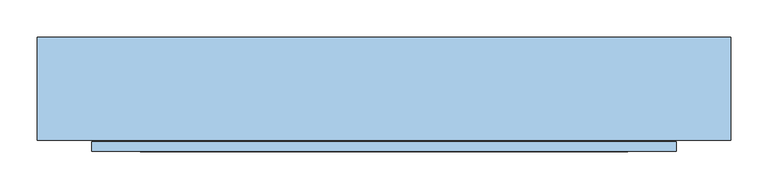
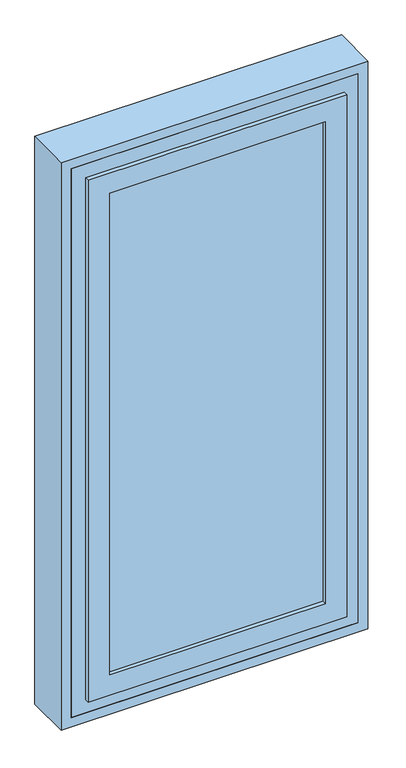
"""IFC4 building model written with IfcOpenShell, lengths in millimetres: window geometry, Окно 1-Распашное - Разделенные наружные и парные внутренние переплеты с остеклением - ГОСТ 11214-2003 : ОД РСП Г1 1760-870-138 ГОСТ 11214-2003."""

from ifc_helpers import new_model, si_unit, frame, origin, place, context, project, spatial, polyline, outline, extrude, faceted_brep, source, transform, mapped, element, save


def window_630a9bb4(model_context):
    return source(origin(), model_context, "Body", "SolidModel", [
        extrude(outline(polyline([(2620.0, -485.0), (800.0, -485.0), (800.0, 445.0), (2620.0, 445.0), (2620.0, -485.0)]), holes=[polyline([(2590.0, 415.0), (830.0, 415.0), (830.0, -455.0), (2590.0, -455.0), (2590.0, 415.0)])]), frame((0.0, 167.0, 0.0), z_axis=(0.0, 1.0, 0.0), x_axis=(0.0, 0.0, 1.0)), (0.0, 0.0, 1.0), 138.0),
        extrude(outline(polyline([(-354.0, 271.0), (-354.0, 274.0), (314.0, 274.0), (314.0, 271.0), (-354.0, 271.0)])), frame((0.0, 0.0, 931.0), z_axis=(0.0, 0.0, 1.0), x_axis=(1.0, 0.0, 0.0)), (0.0, 0.0, 1.0), 1558.0),
        extrude(outline(polyline([(-367.0, 212.0), (-367.0, 215.0), (327.0, 215.0), (327.0, 212.0), (-367.0, 212.0)])), frame((0.0, 0.0, 918.0), z_axis=(0.0, 0.0, 1.0), x_axis=(1.0, 0.0, 0.0)), (0.0, 0.0, 1.0), 1584.0),
        extrude(outline(polyline([(-367.0, 165.0), (-367.0, 168.0), (327.0, 168.0), (327.0, 165.0), (-367.0, 165.0)])), frame((0.0, 0.0, 918.0), z_axis=(0.0, 0.0, 1.0), x_axis=(1.0, 0.0, 0.0)), (0.0, 0.0, 1.0), 1584.0),
        faceted_brep([(359.0, 259.0, 2534.0), (359.0, 246.0, 2534.0), (359.0, 246.0, 886.0), (359.0, 259.0, 886.0), (-399.0, 246.0, 2534.0), (-399.0, 246.0, 886.0), (294.0, 246.0, 951.0), (-334.0, 246.0, 951.0), (-334.0, 246.0, 2469.0), (294.0, 246.0, 2469.0), (-399.0, 259.0, 886.0), (-399.0, 259.0, 2534.0), (350.0, 259.0, 2525.0), (-390.0, 259.0, 2525.0), (-390.0, 259.0, 895.0), (350.0, 259.0, 895.0), (350.0, 287.0, 2525.0), (350.0, 287.0, 895.0), (-390.0, 287.0, 895.0), (-390.0, 287.0, 2525.0), (294.0, 287.0, 2469.0), (-334.0, 287.0, 2469.0), (-334.0, 287.0, 951.0), (294.0, 287.0, 951.0), (294.0, 271.0, 2469.0), (294.0, 271.0, 951.0), (314.0, 271.0, 931.0), (-354.0, 271.0, 931.0), (-354.0, 271.0, 2489.0), (314.0, 271.0, 2489.0), (-334.0, 271.0, 2469.0), (-334.0, 271.0, 951.0), (-334.0, 274.0, 951.0), (-334.0, 274.0, 2469.0), (294.0, 274.0, 951.0), (294.0, 274.0, 2469.0), (314.0, 274.0, 2489.0), (-354.0, 274.0, 2489.0), (-354.0, 274.0, 931.0), (314.0, 274.0, 931.0)], [[[0, 1, 2, 3]], [[1, 4, 5, 2], [6, 7, 8, 9]], [[3, 2, 5, 10]], [[3, 10, 11, 0], [12, 13, 14, 15]], [[16, 12, 15, 17]], [[17, 15, 14, 18]], [[17, 18, 19, 16], [20, 21, 22, 23]], [[9, 24, 25, 6]], [[26, 27, 28, 29], [24, 30, 31, 25]], [[6, 25, 31, 7]], [[10, 5, 4, 11]], [[18, 14, 13, 19]], [[7, 31, 30, 8]], [[32, 22, 21, 33]], [[34, 23, 22, 32]], [[35, 20, 23, 34]], [[36, 37, 38, 39], [34, 32, 33, 35]], [[29, 36, 39, 26]], [[26, 39, 38, 27]], [[27, 38, 37, 28]], [[11, 4, 1, 0]], [[19, 13, 12, 16]], [[8, 30, 24, 9]], [[33, 21, 20, 35]], [[28, 37, 36, 29]]]),
        faceted_brep([(362.0, 228.0, 2537.0), (362.0, 196.0, 2537.0), (362.0, 196.0, 883.0), (362.0, 228.0, 883.0), (-402.0, 196.0, 2537.0), (-402.0, 196.0, 883.0), (307.0, 196.0, 938.0), (-347.0, 196.0, 938.0), (-347.0, 196.0, 2482.0), (307.0, 196.0, 2482.0), (-402.0, 228.0, 883.0), (-402.0, 228.0, 2537.0), (307.0, 228.0, 2482.0), (-347.0, 228.0, 2482.0), (-347.0, 228.0, 938.0), (307.0, 228.0, 938.0), (307.0, 212.0, 2482.0), (307.0, 212.0, 938.0), (327.0, 212.0, 918.0), (-367.0, 212.0, 918.0), (-367.0, 212.0, 2502.0), (327.0, 212.0, 2502.0), (-347.0, 212.0, 2482.0), (-347.0, 212.0, 938.0), (-347.0, 215.0, 938.0), (-347.0, 215.0, 2482.0), (307.0, 215.0, 938.0), (307.0, 215.0, 2482.0), (327.0, 215.0, 2502.0), (-367.0, 215.0, 2502.0), (-367.0, 215.0, 918.0), (327.0, 215.0, 918.0)], [[[0, 1, 2, 3]], [[1, 4, 5, 2], [6, 7, 8, 9]], [[3, 2, 5, 10]], [[3, 10, 11, 0], [12, 13, 14, 15]], [[9, 16, 17, 6]], [[18, 19, 20, 21], [16, 22, 23, 17]], [[6, 17, 23, 7]], [[10, 5, 4, 11]], [[7, 23, 22, 8]], [[24, 14, 13, 25]], [[26, 15, 14, 24]], [[27, 12, 15, 26]], [[28, 29, 30, 31], [26, 24, 25, 27]], [[21, 28, 31, 18]], [[18, 31, 30, 19]], [[19, 30, 29, 20]], [[11, 4, 1, 0]], [[8, 22, 16, 9]], [[25, 13, 12, 27]], [[20, 29, 28, 21]]]),
        faceted_brep([(372.0, 165.0, 2547.0), (372.0, 152.0, 2547.0), (372.0, 152.0, 873.0), (372.0, 165.0, 873.0), (-412.0, 152.0, 2547.0), (-412.0, 152.0, 873.0), (307.0, 152.0, 938.0), (-347.0, 152.0, 938.0), (-347.0, 152.0, 2482.0), (307.0, 152.0, 2482.0), (-412.0, 165.0, 873.0), (-412.0, 165.0, 2547.0), (362.0, 165.0, 2537.0), (-402.0, 165.0, 2537.0), (-402.0, 165.0, 883.0), (362.0, 165.0, 883.0), (362.0, 194.0, 2537.0), (362.0, 194.0, 883.0), (-402.0, 194.0, 883.0), (-402.0, 194.0, 2537.0), (307.0, 194.0, 2482.0), (-347.0, 194.0, 2482.0), (-347.0, 194.0, 938.0), (307.0, 194.0, 938.0), (307.0, 165.0, 2482.0), (307.0, 165.0, 938.0), (327.0, 165.0, 918.0), (-367.0, 165.0, 918.0), (-367.0, 165.0, 2502.0), (327.0, 165.0, 2502.0), (-347.0, 165.0, 2482.0), (-347.0, 165.0, 938.0), (-347.0, 168.0, 938.0), (-347.0, 168.0, 2482.0), (307.0, 168.0, 938.0), (307.0, 168.0, 2482.0), (327.0, 168.0, 2502.0), (-367.0, 168.0, 2502.0), (-367.0, 168.0, 918.0), (327.0, 168.0, 918.0)], [[[0, 1, 2, 3]], [[1, 4, 5, 2], [6, 7, 8, 9]], [[3, 2, 5, 10]], [[3, 10, 11, 0], [12, 13, 14, 15]], [[16, 12, 15, 17]], [[17, 15, 14, 18]], [[17, 18, 19, 16], [20, 21, 22, 23]], [[9, 24, 25, 6]], [[26, 27, 28, 29], [24, 30, 31, 25]], [[6, 25, 31, 7]], [[10, 5, 4, 11]], [[18, 14, 13, 19]], [[7, 31, 30, 8]], [[32, 22, 21, 33]], [[34, 23, 22, 32]], [[35, 20, 23, 34]], [[36, 37, 38, 39], [34, 32, 33, 35]], [[29, 36, 39, 26]], [[26, 39, 38, 27]], [[27, 38, 37, 28]], [[11, 4, 1, 0]], [[19, 13, 12, 16]], [[8, 30, 24, 9]], [[33, 21, 20, 35]], [[28, 37, 36, 29]]]),
        faceted_brep([(415.0, 305.0, 830.0), (415.0, 167.0, 830.0), (-455.0, 167.0, 830.0), (-455.0, 305.0, 830.0), (415.0, 167.0, 2590.0), (415.0, 305.0, 2590.0), (-455.0, 167.0, 2590.0), (364.0, 167.0, 2539.0), (364.0, 167.0, 881.0), (-404.0, 167.0, 881.0), (-404.0, 167.0, 2539.0), (-455.0, 305.0, 2590.0), (-374.0, 305.0, 2509.0), (-374.0, 305.0, 887.1764763), (334.0, 305.0, 887.1764763), (334.0, 305.0, 2509.0), (-374.0, 289.0, 2509.0), (-374.0, 289.0, 893.0), (334.0, 289.0, 893.0), (334.0, 289.0, 2509.0), (364.0, 261.0, 2539.0), (364.0, 261.0, 881.0), (-404.0, 261.0, 881.0), (-404.0, 261.0, 2539.0), (352.0, 261.0, 2527.0), (352.0, 261.0, 893.0), (-392.0, 261.0, 893.0), (-392.0, 261.0, 2527.0), (352.0, 289.0, 2527.0), (352.0, 289.0, 893.0), (-392.0, 289.0, 893.0), (-392.0, 289.0, 2527.0)], [[[0, 1, 2, 3]], [[4, 1, 0, 5]], [[2, 1, 4, 6], [7, 8, 9, 10]], [[2, 6, 11, 3]], [[0, 3, 11, 5], [12, 13, 14, 15]], [[12, 16, 17, 13]], [[14, 13, 17, 18]], [[19, 15, 14, 18]], [[7, 20, 21, 8]], [[9, 8, 21, 22]], [[22, 23, 10, 9]], [[20, 23, 22, 21], [24, 25, 26, 27]], [[24, 28, 29, 25]], [[26, 25, 29, 18, 17, 30]], [[31, 27, 26, 30]], [[28, 31, 30, 17, 16, 19, 18, 29]], [[12, 15, 19, 16]], [[5, 11, 6, 4]], [[7, 10, 23, 20]], [[24, 27, 31, 28]]]),
    ])


if __name__ == "__main__":
    model = new_model("IFC4")
    model_context = context("Model", 3, world=origin())
    ifc_project = project(units=[si_unit("LENGTHUNIT", "METRE", prefix="MILLI")], contexts=[model_context])
    site = spatial("IfcSite", under=ifc_project)
    building = spatial("IfcBuilding", under=site)
    placement = place(None, origin())
    window_shape = window_630a9bb4(model_context)
    element("IfcWindow", 1, ObjectType="Окно 1-Распашное - Разделенные наружные и парные внутренние переплеты с остеклением - ГОСТ 11214-2003 : ОД РСП Г1 1760-870-138 ГОСТ 11214-2003", at=placement, inside=building, context=model_context, shape_type="MappedRepresentation", body=[
        mapped(window_shape, transform((0.0, 0.0, 0.0), x_axis=(1.0, 0.0, 0.0), y_axis=(0.0, 1.0, 0.0), z_axis=(0.0, 0.0, 1.0))),
    ])
    save(model, "model.ifc")
